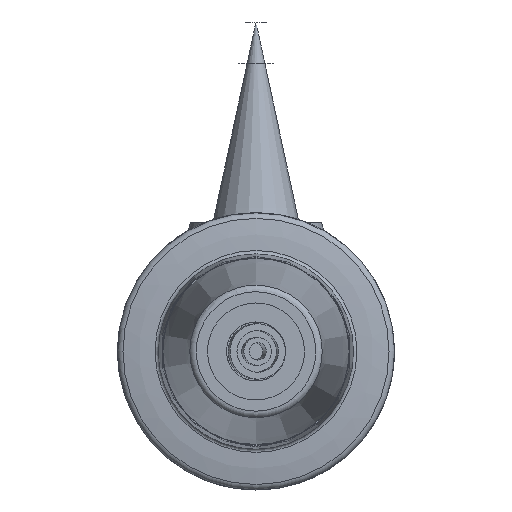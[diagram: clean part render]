
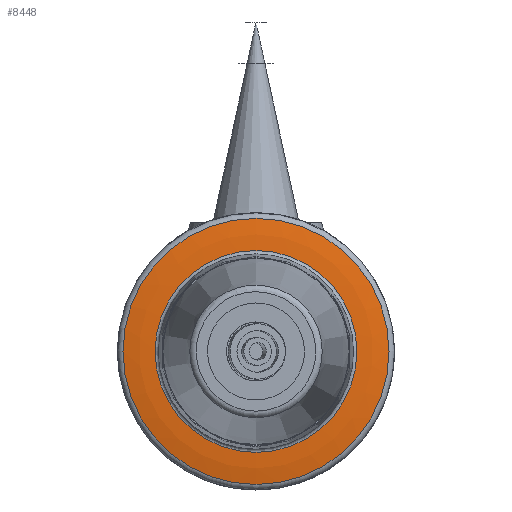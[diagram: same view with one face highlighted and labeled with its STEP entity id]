
A CAD part, left-side view. The second image highlights one B-rep face of the part: STEP entity #8448.
In plain terms, the highlighted toroidal (fillet/blend) face has major radius 14.106 mm and minor radius 25 mm.
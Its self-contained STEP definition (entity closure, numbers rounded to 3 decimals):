
#306 = EDGE_LOOP ( 'NONE', ( #6896 ) ) ;
#763 = DIRECTION ( 'NONE',  ( -1., 0., 0. ) ) ;
#782 = DIRECTION ( 'NONE',  ( -1., 0., 0. ) ) ;
#1010 = FACE_OUTER_BOUND ( 'NONE', #9724, .T. ) ;
#1808 = EDGE_CURVE ( 'NONE', #9237, #9237, #6557, .T. ) ;
#2234 = TOROIDAL_SURFACE ( 'NONE', #4785, 14.106, 25. ) ;
#2567 = CARTESIAN_POINT ( 'NONE',  ( -96.19, 0., 0. ) ) ;
#4084 = CARTESIAN_POINT ( 'NONE',  ( -95.669, 0., 19.204 ) ) ;
#4208 = DIRECTION ( 'NONE',  ( 0., 0., 1. ) ) ;
#4223 = DIRECTION ( 'NONE',  ( 0., 0., 1. ) ) ;
#4224 = EDGE_CURVE ( 'NONE', #5177, #5177, #8898, .T. ) ;
#4785 = AXIS2_PLACEMENT_3D ( 'NONE', #9379, #782, #4223 ) ;
#5177 = VERTEX_POINT ( 'NONE', #4084 ) ;
#5832 = AXIS2_PLACEMENT_3D ( 'NONE', #5915, #763, #4208 ) ;
#5914 = DIRECTION ( 'NONE',  ( 0., 0., 1. ) ) ;
#5915 = CARTESIAN_POINT ( 'NONE',  ( -95.669, 0., 0. ) ) ;
#6046 = FACE_OUTER_BOUND ( 'NONE', #306, .T. ) ;
#6557 = CIRCLE ( 'NONE', #8908, 14.568 ) ;
#6640 = CARTESIAN_POINT ( 'NONE',  ( -96.19, 0., 14.568 ) ) ;
#6896 = ORIENTED_EDGE ( 'NONE', *, *, #4224, .T. ) ;
#8136 = ORIENTED_EDGE ( 'NONE', *, *, #1808, .F. ) ;
#8448 = ADVANCED_FACE ( 'NONE', ( #1010, #6046 ), #2234, .T. ) ;
#8898 = CIRCLE ( 'NONE', #5832, 19.204 ) ;
#8908 = AXIS2_PLACEMENT_3D ( 'NONE', #2567, #10157, #5914 ) ;
#9237 = VERTEX_POINT ( 'NONE', #6640 ) ;
#9379 = CARTESIAN_POINT ( 'NONE',  ( -71.194, 0., 0. ) ) ;
#9724 = EDGE_LOOP ( 'NONE', ( #8136 ) ) ;
#10157 = DIRECTION ( 'NONE',  ( -1., 0., 0. ) ) ;
